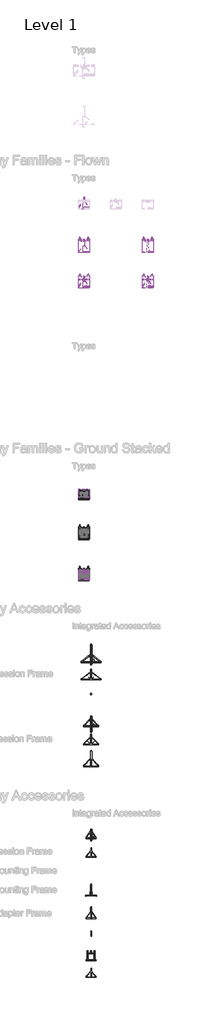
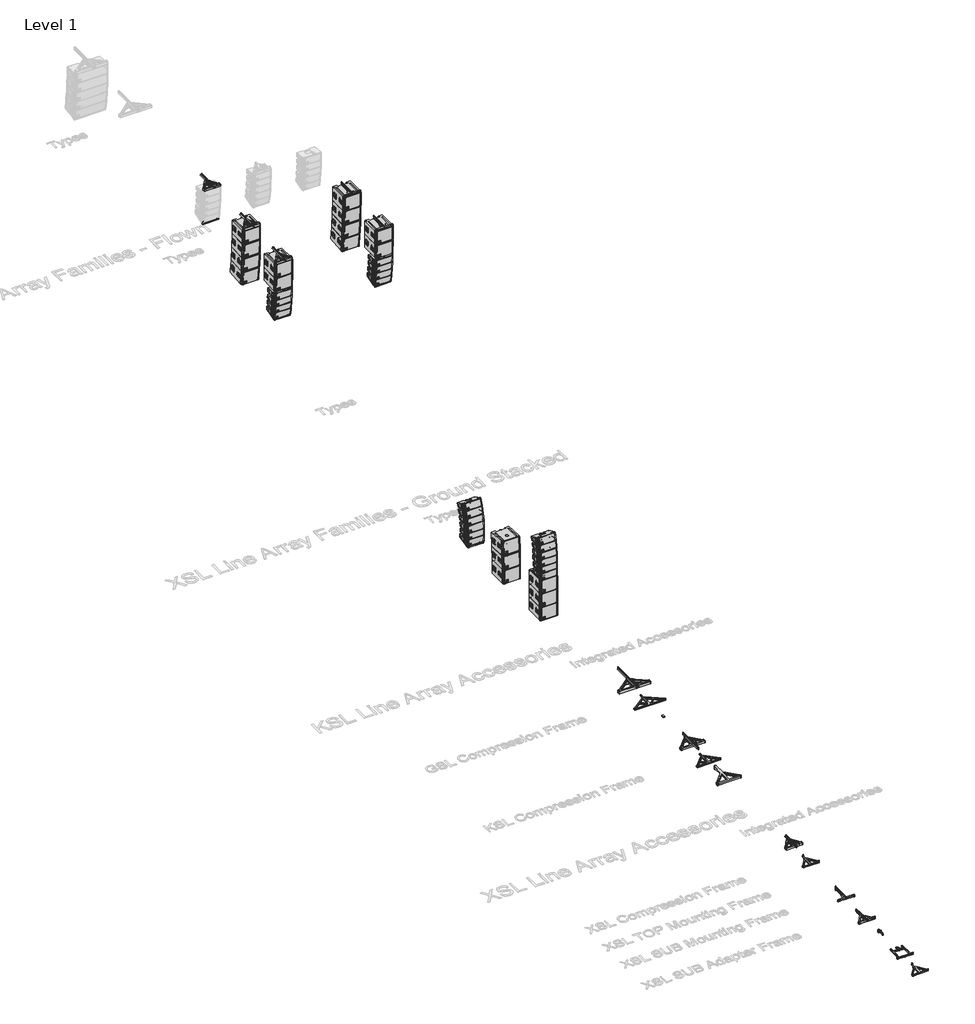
# One storey, part 1 of 52: 74 proxies.
"""IFC4 building model written with IfcOpenShell, lengths in millimetres."""

from ifc_helpers import new_model, si_unit, origin, place, context, project, spatial, transform, mapped, element, save
from components import communication_devices_670856ec, communication_devices_4e83a63b, xsl_compression_frame_79202efc, communication_devices_4d89ff1e, communication_devices_fb2c1ed3, gsl_compression_frame_d4c21625, gsl_load_beam_2b40e9ae, ksl_adapter_frame_febc720b, ksl_compression_frame_dbb09a64, ksl_load_beam_08e2ac32, xsl_adapter_frame_a1c6265e, xsl_adapter_frame_4c239690, xsl_load_beam_a079c9b4, xsl_load_beam_7bbdde43, xsl_sub_mounting_frame_72f05cd3, xsl_sub_mounting_frame_cb1839e0, xsl_stack_adapter_3c41b4e6, xsl_stacking_frame_c5b48331, xsl_stacking_frame_b9873154, xsl_sub_eb40c905, xsl_sub_1e621e3c, xsl_sub_a75d85bd, xsl_sub_8213218d, xsl12_895e49e3, xsl12_576bfbdb, xsl12_ee73a5ce

model = new_model("IFC4")

# Units and contexts
model_context = context("Model", 3, world=origin())
ifc_project = project(units=[si_unit("LENGTHUNIT", "METRE", prefix="MILLI")], contexts=[model_context])

# Site, building, storey
site = spatial("IfcSite", under=ifc_project)
building = spatial("IfcBuilding", under=site)
storey = spatial("IfcBuildingStorey", under=building, Name="Level 1", Elevation=0.0)

# Proxies
placement = place(None, origin())
communication_devices_shape = communication_devices_670856ec(model_context)
element("IfcBuildingElementProxy", 1, Name="d&b SL-Series KSL Flying Frame : KSL Flying Frame", ObjectType="d&b SL-Series KSL Flying Frame : KSL Flying Frame", at=placement, inside=storey, context=model_context, shape_type="MappedRepresentation", body=[
    mapped(communication_devices_shape, transform((-10296.3792514, -55696.8128045, 0.0), x_axis=(1.0, 0.0, 0.0), y_axis=(0.0, 1.0, 0.0), z_axis=(0.0, 0.0, 1.0))),
])
communication_devices_2_shape = communication_devices_4e83a63b(model_context)
element("IfcBuildingElementProxy", 2, Name="d&b SL-Series GSL Flying Frame : GSL Flying Frame", ObjectType="d&b SL-Series GSL Flying Frame : GSL Flying Frame", at=placement, inside=storey, context=model_context, shape_type="MappedRepresentation", body=[
    mapped(communication_devices_2_shape, transform((-10296.3792514, -51696.8128045, 0.0), x_axis=(1.0, 0.0, 0.0), y_axis=(0.0, 1.0, 0.0), z_axis=(0.0, 0.0, 1.0))),
])
xsl_compression_frame_shape = xsl_compression_frame_79202efc(model_context)
element("IfcBuildingElementProxy", 3, Name="d&b SL-Series XSL Pullback Frame : XSL Pullback Frame", ObjectType="d&b SL-Series XSL Pullback Frame : XSL Pullback Frame", at=placement, inside=storey, context=model_context, shape_type="MappedRepresentation", body=[
    mapped(xsl_compression_frame_shape, transform((-10296.3792514, -71385.7946783, 0.0), x_axis=(1.0, 0.0, 0.0), y_axis=(0.0, 1.0, 0.0), z_axis=(0.0, 0.0, 1.0))),
])
communication_devices_3_shape = communication_devices_4d89ff1e(model_context)
element("IfcBuildingElementProxy", 4, Name="d&b SL-Series XSL Flying Frame : XSL Flying Frame", ObjectType="d&b SL-Series XSL Flying Frame : XSL Flying Frame", at=placement, inside=storey, context=model_context, shape_type="MappedRepresentation", body=[
    mapped(communication_devices_3_shape, transform((-10296.3792514, -62666.3154614, 0.0), x_axis=(1.0, 0.0, 0.0), y_axis=(0.0, 1.0, 0.0), z_axis=(0.0, 0.0, 1.0))),
])
element("IfcBuildingElementProxy", 5, Name="d&b SL-Series XSL Flying Frame : XSL Flying Frame", ObjectType="d&b SL-Series XSL Flying Frame : XSL Flying Frame", at=placement, inside=storey, context=model_context, shape_type="MappedRepresentation", body=[
    mapped(communication_devices_3_shape, transform((-10741.6434304, -26060.7426738, 4011.0), x_axis=(1.0000000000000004, 0.0, 0.0), y_axis=(0.0, 1.0000000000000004, 0.0), z_axis=(0.0, 0.0, 1.0))),
])
element("IfcBuildingElementProxy", 6, Name="d&b SL-Series XSL Flying Frame : XSL Flying Frame", ObjectType="d&b SL-Series XSL Flying Frame : XSL Flying Frame", at=placement, inside=storey, context=model_context, shape_type="MappedRepresentation", body=[
    mapped(communication_devices_3_shape, transform((-10741.6434304, -28272.3737699, 3931.0), x_axis=(1.0, 0.0, 0.0), y_axis=(0.0, 1.0, 0.0), z_axis=(0.0, 0.0, 1.0))),
])
element("IfcBuildingElementProxy", 7, Name="d&b SL-Series XSL Flying Frame : XSL Flying Frame", ObjectType="d&b SL-Series XSL Flying Frame : XSL Flying Frame", at=placement, inside=storey, context=model_context, shape_type="MappedRepresentation", body=[
    mapped(communication_devices_3_shape, transform((-10741.6434304, -23330.9856601, 4011.0), x_axis=(1.0000000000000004, 0.0, 0.0), y_axis=(0.0, 1.0000000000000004, 0.0), z_axis=(0.0, 0.0, 1.0))),
])
communication_devices_4_shape = communication_devices_fb2c1ed3(model_context)
element("IfcBuildingElementProxy", 8, Name="d&b SL-Series ArraySight Sender Unit : ArraySight Sender Unit", ObjectType="d&b SL-Series ArraySight Sender Unit : ArraySight Sender Unit", at=placement, inside=storey, context=model_context, shape_type="MappedRepresentation", body=[
    mapped(communication_devices_4_shape, transform((-10296.3792514, -53696.8128045, 0.0), x_axis=(1.0, 0.0, 0.0), y_axis=(0.0, 1.0, 0.0), z_axis=(0.0, 0.0, 1.0))),
])
element("IfcBuildingElementProxy", 9, Name="d&b SL-Series ArraySight Sender Unit : ArraySight Sender Unit", ObjectType="d&b SL-Series ArraySight Sender Unit : ArraySight Sender Unit", at=placement, inside=storey, context=model_context, shape_type="MappedRepresentation", body=[
    mapped(communication_devices_4_shape, transform((-10667.2568891, -23330.9856601, 4004.0), x_axis=(1.0000000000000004, 0.0, 0.0), y_axis=(0.0, 1.0000000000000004, 0.0), z_axis=(0.0, 0.0, 1.0))),
])
element("IfcBuildingElementProxy", 10, Name="d&b SL-Series ArraySight Sender Unit : ArraySight Sender Unit", ObjectType="d&b SL-Series ArraySight Sender Unit : ArraySight Sender Unit", at=placement, inside=storey, context=model_context, shape_type="MappedRepresentation", body=[
    mapped(communication_devices_4_shape, transform((-10667.1492121, -26068.3898699, 4005.546875), x_axis=(1.0000000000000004, 0.0, 0.0), y_axis=(0.0, 1.0000000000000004, 0.0), z_axis=(0.0, 0.0, 1.0))),
])
element("IfcBuildingElementProxy", 11, Name="d&b SL-Series ArraySight Sender Unit : ArraySight Sender Unit", ObjectType="d&b SL-Series ArraySight Sender Unit : ArraySight Sender Unit", at=placement, inside=storey, context=model_context, shape_type="MappedRepresentation", body=[
    mapped(communication_devices_4_shape, transform((-10591.6434304, -28209.2487699, 3924.0), x_axis=(1.0, 0.0, 0.0), y_axis=(0.0, 1.0, 0.0), z_axis=(0.0, 0.0, 1.0))),
])
element("IfcBuildingElementProxy", 12, Name="d&b SL-Series ArraySight Sender Unit : ArraySight Sender Unit", ObjectType="d&b SL-Series ArraySight Sender Unit : ArraySight Sender Unit", at=placement, inside=storey, context=model_context, shape_type="MappedRepresentation", body=[
    mapped(communication_devices_4_shape, transform((-6591.6434304, -28209.2487699, 3924.0), x_axis=(1.0, 0.0, 0.0), y_axis=(0.0, 1.0, 0.0), z_axis=(0.0, 0.0, 1.0))),
])
element("IfcBuildingElementProxy", 13, Name="d&b SL-Series ArraySight Sender Unit : ArraySight Sender Unit", ObjectType="d&b SL-Series ArraySight Sender Unit : ArraySight Sender Unit", at=placement, inside=storey, context=model_context, shape_type="MappedRepresentation", body=[
    mapped(communication_devices_4_shape, transform((-6667.1492121, -26068.3898699, 4005.546875), x_axis=(1.0000000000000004, 0.0, 0.0), y_axis=(0.0, 1.0000000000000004, 0.0), z_axis=(0.0, 0.0, 1.0))),
])
gsl_compression_frame_shape = gsl_compression_frame_d4c21625(model_context)
element("IfcBuildingElementProxy", 14, Name="d&b SL-Series GSL Compression Frame : GSL Compression Frame", ObjectType="d&b SL-Series GSL Compression Frame : GSL Compression Frame", at=placement, inside=storey, context=model_context, shape_type="MappedRepresentation", body=[
    mapped(gsl_compression_frame_shape, transform((-10296.3792514, -52772.8536732, 0.0), x_axis=(1.0, 0.0, 0.0), y_axis=(0.0, 1.0, 0.0), z_axis=(0.0, 0.0, 1.0))),
])
gsl_load_beam_shape = gsl_load_beam_2b40e9ae(model_context)
element("IfcBuildingElementProxy", 15, Name="d&b SL-Series GSL Load Beam : GSL Load Beam", ObjectType="d&b SL-Series GSL Load Beam : GSL Load Beam", at=placement, inside=storey, context=model_context, shape_type="MappedRepresentation", body=[
    mapped(gsl_load_beam_shape, transform((-10296.3792514, -51696.8128045, 0.0), x_axis=(1.0, 0.0, 0.0), y_axis=(0.0, 1.0, 0.0), z_axis=(0.0, 0.0, 1.0))),
])
ksl_adapter_frame_shape = ksl_adapter_frame_febc720b(model_context)
element("IfcBuildingElementProxy", 16, Name="d&b SL-Series KSL Adapter Frame : KSL Adapter Frame", ObjectType="d&b SL-Series KSL Adapter Frame : KSL Adapter Frame", at=placement, inside=storey, context=model_context, shape_type="MappedRepresentation", body=[
    mapped(ksl_adapter_frame_shape, transform((-11296.3792514, -58188.2587465, 0.0), x_axis=(1.0, 0.0, 0.0), y_axis=(0.0, 1.0, 0.0), z_axis=(0.0, 0.0, 1.0))),
])
ksl_compression_frame_shape = ksl_compression_frame_dbb09a64(model_context)
element("IfcBuildingElementProxy", 17, Name="d&b SL-Series KSL Compression Frame : KSL Compression Frame", ObjectType="d&b SL-Series KSL Compression Frame : KSL Compression Frame", at=placement, inside=storey, context=model_context, shape_type="MappedRepresentation", body=[
    mapped(ksl_compression_frame_shape, transform((-10296.3792514, -56832.8536732, 0.0), x_axis=(1.0, 0.0, 0.0), y_axis=(0.0, 1.0, 0.0), z_axis=(0.0, 0.0, 1.0))),
])
ksl_load_beam_shape = ksl_load_beam_08e2ac32(model_context)
element("IfcBuildingElementProxy", 18, Name="d&b SL-Series KSL Load Beam : KSL Load Beam", ObjectType="d&b SL-Series KSL Load Beam : KSL Load Beam", at=placement, inside=storey, context=model_context, shape_type="MappedRepresentation", body=[
    mapped(ksl_load_beam_shape, transform((-10296.3792514, -55696.8128045, 0.0), x_axis=(1.0, 0.0, 0.0), y_axis=(0.0, 1.0, 0.0), z_axis=(0.0, 0.0, 1.0))),
])
xsl_adapter_frame_shape = xsl_adapter_frame_a1c6265e(model_context)
xsl_adapter_frame_2_shape = xsl_adapter_frame_4c239690(model_context)
element("IfcBuildingElementProxy", 19, Name="d&b SL-Series XSL SUB Adapter Frame : XSL Adapter Frame", ObjectType="d&b SL-Series XSL SUB Adapter Frame : XSL Adapter Frame", at=placement, inside=storey, context=model_context, shape_type="MappedRepresentation", body=[
    mapped(xsl_adapter_frame_shape, transform((-10741.6434304, -28297.7865, 2766.5781988), x_axis=(1.0, 0.0, 0.0), y_axis=(0.0, 0.9993908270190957, 0.034899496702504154), z_axis=(0.0, -0.034899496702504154, 0.9993908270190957))),
    mapped(xsl_adapter_frame_2_shape, transform((-10741.6434304, -28297.7865, 2766.5781988), x_axis=(1.0, 0.0, 0.0), y_axis=(0.0, 0.9993908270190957, 0.034899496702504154), z_axis=(0.0, -0.034899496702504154, 0.9993908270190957))),
])
element("IfcBuildingElementProxy", 20, Name="d&b SL-Series XSL SUB Adapter Frame : XSL Adapter Frame", ObjectType="d&b SL-Series XSL SUB Adapter Frame : XSL Adapter Frame", at=placement, inside=storey, context=model_context, shape_type="MappedRepresentation", body=[
    mapped(xsl_adapter_frame_shape, transform((-6741.6434304, -28297.7865, 2766.5781988), x_axis=(1.0, 0.0, 0.0), y_axis=(0.0, 0.9993908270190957, 0.034899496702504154), z_axis=(0.0, -0.034899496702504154, 0.9993908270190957))),
    mapped(xsl_adapter_frame_2_shape, transform((-6741.6434304, -28297.7865, 2766.5781988), x_axis=(1.0, 0.0, 0.0), y_axis=(0.0, 0.9993908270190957, 0.034899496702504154), z_axis=(0.0, -0.034899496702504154, 0.9993908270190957))),
])
element("IfcBuildingElementProxy", 21, Name="d&b SL-Series XSL Compression Frame : XSL Compression Frame", ObjectType="d&b SL-Series XSL Compression Frame : XSL Compression Frame", at=placement, inside=storey, context=model_context, shape_type="MappedRepresentation", body=[
    mapped(xsl_compression_frame_shape, transform((-10296.3792514, -63866.3154614, 0.0), x_axis=(1.0, 0.0, 0.0), y_axis=(0.0, 1.0, 0.0), z_axis=(0.0, 0.0, 1.0))),
])
element("IfcBuildingElementProxy", 22, Name="d&b SL-Series XSL Compression Frame : XSL Compression Frame", ObjectType="d&b SL-Series XSL Compression Frame : XSL Compression Frame", at=placement, inside=storey, context=model_context, shape_type="MappedRepresentation", body=[
    mapped(xsl_compression_frame_shape, transform((-10741.6434304, -28194.0208606, 1541.4998097), x_axis=(1.0, 0.0, 0.0), y_axis=(0.0, 0.990268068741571, 0.13917310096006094), z_axis=(0.0, -0.13917310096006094, 0.990268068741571))),
])
element("IfcBuildingElementProxy", 23, Name="d&b SL-Series XSL Compression Frame : XSL Compression Frame", ObjectType="d&b SL-Series XSL Compression Frame : XSL Compression Frame", at=placement, inside=storey, context=model_context, shape_type="MappedRepresentation", body=[
    mapped(xsl_compression_frame_shape, transform((-6741.6434304, -28194.0208606, 1541.4998097), x_axis=(1.0, 0.0, 0.0), y_axis=(0.0, 0.990268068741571, 0.13917310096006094), z_axis=(0.0, -0.13917310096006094, 0.990268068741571))),
])
element("IfcBuildingElementProxy", 24, Name="d&b SL-Series XSL Compression Frame : XSL Compression Frame", ObjectType="d&b SL-Series XSL Compression Frame : XSL Compression Frame", at=placement, inside=storey, context=model_context, shape_type="MappedRepresentation", body=[
    mapped(xsl_compression_frame_shape, transform((-10741.6434304, -23258.1779583, 2573.6576179), x_axis=(1.0000000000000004, 0.0, 0.0), y_axis=(0.0, 0.981627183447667, 0.19080899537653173), z_axis=(0.0, -0.19080899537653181, 0.9816271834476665))),
])
xsl_load_beam_shape = xsl_load_beam_a079c9b4(model_context)
element("IfcBuildingElementProxy", 25, Name="d&b SL-Series XSL Load Beam : XSL Load Beam", ObjectType="d&b SL-Series XSL Load Beam : XSL Load Beam", at=placement, inside=storey, context=model_context, shape_type="MappedRepresentation", body=[
    mapped(xsl_load_beam_shape, transform((-10296.3792514, -62622.8108893, -10.9199532), x_axis=(1.0, 0.0, 0.0), y_axis=(0.0, 1.0, 0.0), z_axis=(0.0, 0.0, 1.0))),
])
xsl_load_beam_2_shape = xsl_load_beam_7bbdde43(model_context)
element("IfcBuildingElementProxy", 26, Name="d&b SL-Series XSL Load Beam : XSL Load Beam", ObjectType="d&b SL-Series XSL Load Beam : XSL Load Beam", at=placement, inside=storey, context=model_context, shape_type="MappedRepresentation", body=[
    mapped(xsl_load_beam_2_shape, transform((-10741.6434304, -26017.2381016, 4000.0800468), x_axis=(1.0000000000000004, 0.0, 0.0), y_axis=(0.0, 1.0000000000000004, 0.0), z_axis=(0.0, 0.0, 1.0))),
])
element("IfcBuildingElementProxy", 27, Name="d&b SL-Series XSL Load Beam : XSL Load Beam", ObjectType="d&b SL-Series XSL Load Beam : XSL Load Beam", at=placement, inside=storey, context=model_context, shape_type="MappedRepresentation", body=[
    mapped(xsl_load_beam_2_shape, transform((-10741.6434304, -28228.8691978, 3920.0800468), x_axis=(1.0, 0.0, 0.0), y_axis=(0.0, 1.0, 0.0), z_axis=(0.0, 0.0, 1.0))),
])
element("IfcBuildingElementProxy", 28, Name="d&b SL-Series XSL Load Beam : XSL Load Beam", ObjectType="d&b SL-Series XSL Load Beam : XSL Load Beam", at=placement, inside=storey, context=model_context, shape_type="MappedRepresentation", body=[
    mapped(xsl_load_beam_2_shape, transform((-10741.6434304, -23287.481088, 4000.0800468), x_axis=(1.0000000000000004, 0.0, 0.0), y_axis=(0.0, 1.0000000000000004, 0.0), z_axis=(0.0, 0.0, 1.0))),
])
element("IfcBuildingElementProxy", 29, Name="d&b SL-Series XSL SUB Adapter Frame : XSL SUB Adapter Frame", ObjectType="d&b SL-Series XSL SUB Adapter Frame : XSL SUB Adapter Frame", at=placement, inside=storey, context=model_context, shape_type="MappedRepresentation", body=[
    mapped(xsl_adapter_frame_shape, transform((-10296.3792514, -67721.4553045, 0.0), x_axis=(1.0, 0.0, 0.0), y_axis=(0.0, 1.0, 0.0), z_axis=(0.0, 0.0, 1.0))),
    mapped(xsl_adapter_frame_2_shape, transform((-10296.3792514, -67721.4553045, 0.0), x_axis=(1.0, 0.0, 0.0), y_axis=(0.0, 1.0, 0.0), z_axis=(0.0, 0.0, 1.0))),
])
xsl_sub_mounting_frame_shape = xsl_sub_mounting_frame_72f05cd3(model_context)
xsl_sub_mounting_frame_2_shape = xsl_sub_mounting_frame_cb1839e0(model_context)
element("IfcBuildingElementProxy", 30, Name="d&b SL-Series XSL SUB Mounting Frame : XSL SUB Mounting Frame", ObjectType="d&b SL-Series XSL SUB Mounting Frame : XSL SUB Mounting Frame", at=placement, inside=storey, context=model_context, shape_type="MappedRepresentation", body=[
    mapped(xsl_sub_mounting_frame_shape, transform((-6741.6434304, -28272.3737699, 3931.0), x_axis=(1.0, 0.0, 0.0), y_axis=(0.0, 1.0, 0.0), z_axis=(0.0, 0.0, 1.0))),
    mapped(xsl_sub_mounting_frame_2_shape, transform((-6741.6434304, -28272.3737699, 3931.0), x_axis=(1.0, 0.0, 0.0), y_axis=(0.0, 1.0, 0.0), z_axis=(0.0, 0.0, 1.0))),
])
element("IfcBuildingElementProxy", 31, Name="d&b SL-Series XSL SUB Mounting Frame : XSL SUB Mounting Frame", ObjectType="d&b SL-Series XSL SUB Mounting Frame : XSL SUB Mounting Frame", at=placement, inside=storey, context=model_context, shape_type="MappedRepresentation", body=[
    mapped(xsl_sub_mounting_frame_shape, transform((-6741.6434304, -26060.7426738, 4011.0), x_axis=(1.0000000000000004, 0.0, 0.0), y_axis=(0.0, 1.0000000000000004, 0.0), z_axis=(0.0, 0.0, 1.0))),
    mapped(xsl_sub_mounting_frame_2_shape, transform((-6741.6434304, -26060.7426738, 4011.0), x_axis=(1.0000000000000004, 0.0, 0.0), y_axis=(0.0, 1.0000000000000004, 0.0), z_axis=(0.0, 0.0, 1.0))),
])
element("IfcBuildingElementProxy", 32, Name="d&b SL-Series XSL SUB Mounting Frame : XSL SUB Mounting Frame", ObjectType="d&b SL-Series XSL SUB Mounting Frame : XSL SUB Mounting Frame", at=placement, inside=storey, context=model_context, shape_type="MappedRepresentation", body=[
    mapped(xsl_sub_mounting_frame_shape, transform((-10296.3792514, -66252.3737699, 0.0), x_axis=(1.0, 0.0, 0.0), y_axis=(0.0, 1.0, 0.0), z_axis=(0.0, 0.0, 1.0))),
    mapped(xsl_sub_mounting_frame_2_shape, transform((-10296.3792514, -66252.3737699, 0.0), x_axis=(1.0, 0.0, 0.0), y_axis=(0.0, 1.0, 0.0), z_axis=(0.0, 0.0, 1.0))),
])
xsl_stack_adapter_shape = xsl_stack_adapter_3c41b4e6(model_context)
element("IfcBuildingElementProxy", 33, Name="d&b SL-Series XSL Stack Adapter : XSL Stack Adapter", ObjectType="d&b SL-Series XSL Stack Adapter : XSL Stack Adapter", at=placement, inside=storey, context=model_context, shape_type="MappedRepresentation", body=[
    mapped(xsl_stack_adapter_shape, transform((-10296.3792514, -68481.4742773, 0.0), x_axis=(1.0, 0.0, 0.0), y_axis=(0.0, 1.0, 0.0), z_axis=(0.0, 0.0, 1.0))),
])
element("IfcBuildingElementProxy", 34, Name="d&b SL-Series XSL Stack Adapter : XSL Stack Adapter", ObjectType="d&b SL-Series XSL Stack Adapter : XSL Stack Adapter", at=placement, inside=storey, context=model_context, shape_type="MappedRepresentation", body=[
    mapped(xsl_stack_adapter_shape, transform((-10741.6434304, -45814.3618052, 1693.5273371), x_axis=(1.0, 0.0, 0.0), y_axis=(0.0, 1.0, 0.0), z_axis=(0.0, 0.0, 1.0))),
])
xsl_stacking_frame_shape = xsl_stacking_frame_c5b48331(model_context)
xsl_stacking_frame_2_shape = xsl_stacking_frame_b9873154(model_context)
element("IfcBuildingElementProxy", 35, Name="d&b SL-Series XSL Stacking Frame : XSL Stacking Frame", ObjectType="d&b SL-Series XSL Stacking Frame : XSL Stacking Frame", at=placement, inside=storey, context=model_context, shape_type="MappedRepresentation", body=[
    mapped(xsl_stacking_frame_shape, transform((-10296.3792514, -70282.5436027, 0.0), x_axis=(1.0, 0.0, 0.0), y_axis=(0.0, 1.0, 0.0), z_axis=(0.0, 0.0, 1.0))),
    mapped(xsl_stacking_frame_2_shape, transform((-10296.3792514, -70282.5436027, 0.0), x_axis=(1.0, 0.0, 0.0), y_axis=(0.0, 1.0, 0.0), z_axis=(0.0, 0.0, 1.0))),
])
element("IfcBuildingElementProxy", 36, Name="d&b SL-Series XSL Stacking Frame : XSL Stacking Frame", ObjectType="d&b SL-Series XSL Stacking Frame : XSL Stacking Frame", at=placement, inside=storey, context=model_context, shape_type="MappedRepresentation", body=[
    mapped(xsl_stacking_frame_shape, transform((-10741.6434304, -41472.4107347, 0.0), x_axis=(1.0000000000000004, 0.0, 0.0), y_axis=(0.0, 1.0000000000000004, 0.0), z_axis=(0.0, 0.0, 1.0))),
    mapped(xsl_stacking_frame_2_shape, transform((-10741.6434304, -41472.4107347, 0.0), x_axis=(1.0000000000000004, 0.0, 0.0), y_axis=(0.0, 1.0000000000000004, 0.0), z_axis=(0.0, 0.0, 1.0))),
])
xsl_sub_shape = xsl_sub_eb40c905(model_context)
xsl_sub_2_shape = xsl_sub_1e621e3c(model_context)
xsl_sub_3_shape = xsl_sub_a75d85bd(model_context)
element("IfcBuildingElementProxy", 37, Name="d&b SL-Series XSL-SUB : XSL-SUB", ObjectType="d&b SL-Series XSL-SUB : XSL-SUB", at=placement, inside=storey, context=model_context, shape_type="MappedRepresentation", body=[
    mapped(xsl_sub_shape, transform((-13241.6434304, -43908.2776915, 1175.7748079), x_axis=(1.0000000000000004, 0.0, 0.0), y_axis=(0.0, 0.9975640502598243, -0.06975647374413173), z_axis=(0.0, 0.06975647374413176, 0.9975640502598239))),
    mapped(xsl_sub_2_shape, transform((-13241.6434304, -43908.2776915, 1175.7748079), x_axis=(1.0000000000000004, 0.0, 0.0), y_axis=(0.0, 0.9975640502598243, -0.06975647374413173), z_axis=(0.0, 0.06975647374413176, 0.9975640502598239))),
    mapped(xsl_sub_3_shape, transform((-13241.6434304, -43908.2776915, 1175.7748079), x_axis=(1.0000000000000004, 0.0, 0.0), y_axis=(0.0, 0.9975640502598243, -0.06975647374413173), z_axis=(0.0, 0.06975647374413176, 0.9975640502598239))),
])
element("IfcBuildingElementProxy", 38, Name="d&b SL-Series XSL-SUB : XSL-SUB", ObjectType="d&b SL-Series XSL-SUB : XSL-SUB", at=placement, inside=storey, context=model_context, shape_type="MappedRepresentation", body=[
    mapped(xsl_sub_shape, transform((-13241.6434304, -46485.5993673, 0.0), x_axis=(1.0, 0.0, 0.0), y_axis=(0.0, 1.0, 0.0), z_axis=(0.0, 0.0, 1.0))),
    mapped(xsl_sub_2_shape, transform((-13241.6434304, -46485.5993673, 0.0), x_axis=(1.0, 0.0, 0.0), y_axis=(0.0, 1.0, 0.0), z_axis=(0.0, 0.0, 1.0))),
    mapped(xsl_sub_3_shape, transform((-13241.6434304, -46485.5993673, 0.0), x_axis=(1.0, 0.0, 0.0), y_axis=(0.0, 1.0, 0.0), z_axis=(0.0, 0.0, 1.0))),
])
element("IfcBuildingElementProxy", 39, Name="d&b SL-Series XSL-SUB : XSL-SUB", ObjectType="d&b SL-Series XSL-SUB : XSL-SUB", at=placement, inside=storey, context=model_context, shape_type="MappedRepresentation", body=[
    mapped(xsl_sub_shape, transform((-13241.6434304, -46485.5993673, 564.2869837), x_axis=(1.0, 0.0, 0.0), y_axis=(0.0, 1.0, 0.0), z_axis=(0.0, 0.0, 1.0))),
    mapped(xsl_sub_2_shape, transform((-13241.6434304, -46485.5993673, 564.2869837), x_axis=(1.0, 0.0, 0.0), y_axis=(0.0, 1.0, 0.0), z_axis=(0.0, 0.0, 1.0))),
    mapped(xsl_sub_3_shape, transform((-13241.6434304, -46485.5993673, 564.2869837), x_axis=(1.0, 0.0, 0.0), y_axis=(0.0, 1.0, 0.0), z_axis=(0.0, 0.0, 1.0))),
])
element("IfcBuildingElementProxy", 40, Name="d&b SL-Series XSL-SUB : XSL-SUB", ObjectType="d&b SL-Series XSL-SUB : XSL-SUB", at=placement, inside=storey, context=model_context, shape_type="MappedRepresentation", body=[
    mapped(xsl_sub_shape, transform((-13241.6434304, -46485.5993673, 1128.5739675), x_axis=(1.0, 0.0, 0.0), y_axis=(0.0, 1.0, 0.0), z_axis=(0.0, 0.0, 1.0))),
    mapped(xsl_sub_2_shape, transform((-13241.6434304, -46485.5993673, 1128.5739675), x_axis=(1.0, 0.0, 0.0), y_axis=(0.0, 1.0, 0.0), z_axis=(0.0, 0.0, 1.0))),
    mapped(xsl_sub_3_shape, transform((-13241.6434304, -46485.5993673, 1128.5739675), x_axis=(1.0, 0.0, 0.0), y_axis=(0.0, 1.0, 0.0), z_axis=(0.0, 0.0, 1.0))),
])
element("IfcBuildingElementProxy", 41, Name="d&b SL-Series XSL-SUB : XSL-SUB", ObjectType="d&b SL-Series XSL-SUB : XSL-SUB", at=placement, inside=storey, context=model_context, shape_type="MappedRepresentation", body=[
    mapped(xsl_sub_shape, transform((-13241.6434304, -28228.3743673, 3348.1966304), x_axis=(1.0, 0.0, 0.0), y_axis=(0.0, 1.0, 0.0), z_axis=(0.0, 0.0, 1.0))),
    mapped(xsl_sub_2_shape, transform((-13241.6434304, -28228.3743673, 3348.1966304), x_axis=(1.0, 0.0, 0.0), y_axis=(0.0, 1.0, 0.0), z_axis=(0.0, 0.0, 1.0))),
    mapped(xsl_sub_3_shape, transform((-13241.6434304, -28228.3743673, 3348.1966304), x_axis=(1.0, 0.0, 0.0), y_axis=(0.0, 1.0, 0.0), z_axis=(0.0, 0.0, 1.0))),
])
element("IfcBuildingElementProxy", 42, Name="d&b SL-Series XSL-SUB : XSL-SUB", ObjectType="d&b SL-Series XSL-SUB : XSL-SUB", at=placement, inside=storey, context=model_context, shape_type="MappedRepresentation", body=[
    mapped(xsl_sub_shape, transform((-9241.6434304, -28228.3743673, 3348.1966304), x_axis=(1.0, 0.0, 0.0), y_axis=(0.0, 1.0, 0.0), z_axis=(0.0, 0.0, 1.0))),
    mapped(xsl_sub_2_shape, transform((-9241.6434304, -28228.3743673, 3348.1966304), x_axis=(1.0, 0.0, 0.0), y_axis=(0.0, 1.0, 0.0), z_axis=(0.0, 0.0, 1.0))),
    mapped(xsl_sub_3_shape, transform((-9241.6434304, -28228.3743673, 3348.1966304), x_axis=(1.0, 0.0, 0.0), y_axis=(0.0, 1.0, 0.0), z_axis=(0.0, 0.0, 1.0))),
])
xsl_sub_4_shape = xsl_sub_8213218d(model_context)
element("IfcBuildingElementProxy", 43, Name="d&b SL-Series XSL-SUB : XSL-SUB", ObjectType="d&b SL-Series XSL-SUB : XSL-SUB", at=placement, inside=storey, context=model_context, shape_type="MappedRepresentation", body=[
    mapped(xsl_sub_shape, transform((-13241.6434304, -43934.0373035, 0.0), x_axis=(1.0000000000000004, 0.0, 0.0), y_axis=(0.0, 1.0000000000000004, 0.0), z_axis=(0.0, 0.0, 1.0))),
    mapped(xsl_sub_4_shape, transform((-13241.6434304, -43934.0373035, 0.0), x_axis=(1.0000000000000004, 0.0, 0.0), y_axis=(0.0, 1.0000000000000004, 0.0), z_axis=(0.0, 0.0, 1.0))),
    mapped(xsl_sub_3_shape, transform((-13241.6434304, -43934.0373035, 0.0), x_axis=(1.0000000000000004, 0.0, 0.0), y_axis=(0.0, 1.0000000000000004, 0.0), z_axis=(0.0, 0.0, 1.0))),
])
element("IfcBuildingElementProxy", 44, Name="d&b SL-Series XSL-SUB : XSL-SUB", ObjectType="d&b SL-Series XSL-SUB : XSL-SUB", at=placement, inside=storey, context=model_context, shape_type="MappedRepresentation", body=[
    mapped(xsl_sub_shape, transform((-13241.6434304, -43932.3540792, 588.1448716), x_axis=(1.0000000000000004, 0.0, 0.0), y_axis=(0.0, 0.9993908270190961, -0.03489949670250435), z_axis=(0.0, 0.03489949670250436, 0.9993908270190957))),
    mapped(xsl_sub_4_shape, transform((-13241.6434304, -43932.3540792, 588.1448716), x_axis=(1.0000000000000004, 0.0, 0.0), y_axis=(0.0, 0.9993908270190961, -0.03489949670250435), z_axis=(0.0, 0.03489949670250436, 0.9993908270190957))),
    mapped(xsl_sub_3_shape, transform((-13241.6434304, -43932.3540792, 588.1448716), x_axis=(1.0000000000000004, 0.0, 0.0), y_axis=(0.0, 0.9993908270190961, -0.03489949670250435), z_axis=(0.0, 0.03489949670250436, 0.9993908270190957))),
])
element("IfcBuildingElementProxy", 45, Name="d&b SL-Series XSL-SUB : XSL-SUB", ObjectType="d&b SL-Series XSL-SUB : XSL-SUB", at=placement, inside=storey, context=model_context, shape_type="MappedRepresentation", body=[
    mapped(xsl_sub_shape, transform((-13241.6434304, -28209.5306062, 2760.6382808), x_axis=(1.0, 0.0, 0.0), y_axis=(0.0, 0.9993908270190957, 0.03489949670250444), z_axis=(0.0, -0.03489949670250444, 0.9993908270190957))),
    mapped(xsl_sub_4_shape, transform((-13241.6434304, -28209.5306062, 2760.6382808), x_axis=(1.0, 0.0, 0.0), y_axis=(0.0, 0.9993908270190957, 0.03489949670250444), z_axis=(0.0, -0.03489949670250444, 0.9993908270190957))),
    mapped(xsl_sub_3_shape, transform((-13241.6434304, -28209.5306062, 2760.6382808), x_axis=(1.0, 0.0, 0.0), y_axis=(0.0, 0.9993908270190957, 0.03489949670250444), z_axis=(0.0, -0.03489949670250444, 0.9993908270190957))),
])
element("IfcBuildingElementProxy", 46, Name="d&b SL-Series XSL-SUB : XSL-SUB", ObjectType="d&b SL-Series XSL-SUB : XSL-SUB", at=placement, inside=storey, context=model_context, shape_type="MappedRepresentation", body=[
    mapped(xsl_sub_shape, transform((-9241.6434304, -28209.5306062, 2760.6382808), x_axis=(1.0, 0.0, 0.0), y_axis=(0.0, 0.9993908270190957, 0.03489949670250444), z_axis=(0.0, -0.03489949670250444, 0.9993908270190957))),
    mapped(xsl_sub_4_shape, transform((-9241.6434304, -28209.5306062, 2760.6382808), x_axis=(1.0, 0.0, 0.0), y_axis=(0.0, 0.9993908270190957, 0.03489949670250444), z_axis=(0.0, -0.03489949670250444, 0.9993908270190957))),
    mapped(xsl_sub_3_shape, transform((-9241.6434304, -28209.5306062, 2760.6382808), x_axis=(1.0, 0.0, 0.0), y_axis=(0.0, 0.9993908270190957, 0.03489949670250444), z_axis=(0.0, -0.03489949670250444, 0.9993908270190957))),
])
element("IfcBuildingElementProxy", 47, Name="d&b SL-Series XSL-SUB : XSL-SUB", ObjectType="d&b SL-Series XSL-SUB : XSL-SUB", at=placement, inside=storey, context=model_context, shape_type="MappedRepresentation", body=[
    mapped(xsl_sub_shape, transform((-13241.6434304, -26016.7432711, 3428.1966304), x_axis=(1.0000000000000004, 0.0, 0.0), y_axis=(0.0, 1.0000000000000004, 0.0), z_axis=(0.0, 0.0, 1.0))),
    mapped(xsl_sub_2_shape, transform((-13241.6434304, -26016.7432711, 3428.1966304), x_axis=(1.0000000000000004, 0.0, 0.0), y_axis=(0.0, 1.0000000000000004, 0.0), z_axis=(0.0, 0.0, 1.0))),
    mapped(xsl_sub_3_shape, transform((-13241.6434304, -26016.7432711, 3428.1966304), x_axis=(1.0000000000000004, 0.0, 0.0), y_axis=(0.0, 1.0000000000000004, 0.0), z_axis=(0.0, 0.0, 1.0))),
])
element("IfcBuildingElementProxy", 48, Name="d&b SL-Series XSL-SUB : XSL-SUB", ObjectType="d&b SL-Series XSL-SUB : XSL-SUB", at=placement, inside=storey, context=model_context, shape_type="MappedRepresentation", body=[
    mapped(xsl_sub_shape, transform((-9241.6434304, -26016.7432711, 3428.1966304), x_axis=(1.0000000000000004, 0.0, 0.0), y_axis=(0.0, 1.0000000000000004, 0.0), z_axis=(0.0, 0.0, 1.0))),
    mapped(xsl_sub_2_shape, transform((-9241.6434304, -26016.7432711, 3428.1966304), x_axis=(1.0000000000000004, 0.0, 0.0), y_axis=(0.0, 1.0000000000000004, 0.0), z_axis=(0.0, 0.0, 1.0))),
    mapped(xsl_sub_3_shape, transform((-9241.6434304, -26016.7432711, 3428.1966304), x_axis=(1.0000000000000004, 0.0, 0.0), y_axis=(0.0, 1.0000000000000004, 0.0), z_axis=(0.0, 0.0, 1.0))),
])
element("IfcBuildingElementProxy", 49, Name="d&b SL-Series XSL-SUB : XSL-SUB", ObjectType="d&b SL-Series XSL-SUB : XSL-SUB", at=placement, inside=storey, context=model_context, shape_type="MappedRepresentation", body=[
    mapped(xsl_sub_shape, transform((-13241.6434304, -25994.4015803, 2833.0550352), x_axis=(1.0000000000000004, 0.0, 0.0), y_axis=(0.0, 0.9993908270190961, 0.03489949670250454), z_axis=(0.0, -0.03489949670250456, 0.9993908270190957))),
    mapped(xsl_sub_4_shape, transform((-13241.6434304, -25994.4015803, 2833.0550352), x_axis=(1.0000000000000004, 0.0, 0.0), y_axis=(0.0, 0.9993908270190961, 0.03489949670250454), z_axis=(0.0, -0.03489949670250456, 0.9993908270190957))),
    mapped(xsl_sub_3_shape, transform((-13241.6434304, -25994.4015803, 2833.0550352), x_axis=(1.0000000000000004, 0.0, 0.0), y_axis=(0.0, 0.9993908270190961, 0.03489949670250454), z_axis=(0.0, -0.03489949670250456, 0.9993908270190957))),
])
element("IfcBuildingElementProxy", 50, Name="d&b SL-Series XSL-SUB : XSL-SUB", ObjectType="d&b SL-Series XSL-SUB : XSL-SUB", at=placement, inside=storey, context=model_context, shape_type="MappedRepresentation", body=[
    mapped(xsl_sub_shape, transform((-13241.6434304, -25951.8501575, 2239.0140093), x_axis=(1.0000000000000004, 0.0, 0.0), y_axis=(0.0, 0.9975640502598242, 0.06975647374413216), z_axis=(0.0, -0.06975647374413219, 0.9975640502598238))),
    mapped(xsl_sub_4_shape, transform((-13241.6434304, -25951.8501575, 2239.0140093), x_axis=(1.0000000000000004, 0.0, 0.0), y_axis=(0.0, 0.9975640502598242, 0.06975647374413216), z_axis=(0.0, -0.06975647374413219, 0.9975640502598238))),
    mapped(xsl_sub_3_shape, transform((-13241.6434304, -25951.8501575, 2239.0140093), x_axis=(1.0000000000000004, 0.0, 0.0), y_axis=(0.0, 0.9975640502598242, 0.06975647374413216), z_axis=(0.0, -0.06975647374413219, 0.9975640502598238))),
])
element("IfcBuildingElementProxy", 51, Name="d&b SL-Series XSL-SUB : XSL-SUB", ObjectType="d&b SL-Series XSL-SUB : XSL-SUB", at=placement, inside=storey, context=model_context, shape_type="MappedRepresentation", body=[
    mapped(xsl_sub_shape, transform((-13241.6434304, -25888.5929231, 1646.8198804), x_axis=(1.0000000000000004, 0.0, 0.0), y_axis=(0.0, 0.9945218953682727, 0.10452846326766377), z_axis=(0.0, -0.10452846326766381, 0.9945218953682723))),
    mapped(xsl_sub_4_shape, transform((-13241.6434304, -25888.5929231, 1646.8198804), x_axis=(1.0000000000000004, 0.0, 0.0), y_axis=(0.0, 0.9945218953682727, 0.10452846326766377), z_axis=(0.0, -0.10452846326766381, 0.9945218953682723))),
    mapped(xsl_sub_3_shape, transform((-13241.6434304, -25888.5929231, 1646.8198804), x_axis=(1.0000000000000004, 0.0, 0.0), y_axis=(0.0, 0.9945218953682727, 0.10452846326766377), z_axis=(0.0, -0.10452846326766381, 0.9945218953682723))),
])
element("IfcBuildingElementProxy", 52, Name="d&b SL-Series XSL-SUB : XSL-SUB", ObjectType="d&b SL-Series XSL-SUB : XSL-SUB", at=placement, inside=storey, context=model_context, shape_type="MappedRepresentation", body=[
    mapped(xsl_sub_shape, transform((-9241.6434304, -25994.4015803, 2833.0550352), x_axis=(1.0000000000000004, 0.0, 0.0), y_axis=(0.0, 0.9993908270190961, 0.03489949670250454), z_axis=(0.0, -0.03489949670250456, 0.9993908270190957))),
    mapped(xsl_sub_4_shape, transform((-9241.6434304, -25994.4015803, 2833.0550352), x_axis=(1.0000000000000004, 0.0, 0.0), y_axis=(0.0, 0.9993908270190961, 0.03489949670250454), z_axis=(0.0, -0.03489949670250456, 0.9993908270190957))),
    mapped(xsl_sub_3_shape, transform((-9241.6434304, -25994.4015803, 2833.0550352), x_axis=(1.0000000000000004, 0.0, 0.0), y_axis=(0.0, 0.9993908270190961, 0.03489949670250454), z_axis=(0.0, -0.03489949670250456, 0.9993908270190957))),
])
element("IfcBuildingElementProxy", 53, Name="d&b SL-Series XSL-SUB : XSL-SUB", ObjectType="d&b SL-Series XSL-SUB : XSL-SUB", at=placement, inside=storey, context=model_context, shape_type="MappedRepresentation", body=[
    mapped(xsl_sub_shape, transform((-9241.6434304, -25951.8501575, 2239.0140093), x_axis=(1.0000000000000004, 0.0, 0.0), y_axis=(0.0, 0.9975640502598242, 0.06975647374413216), z_axis=(0.0, -0.06975647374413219, 0.9975640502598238))),
    mapped(xsl_sub_4_shape, transform((-9241.6434304, -25951.8501575, 2239.0140093), x_axis=(1.0000000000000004, 0.0, 0.0), y_axis=(0.0, 0.9975640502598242, 0.06975647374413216), z_axis=(0.0, -0.06975647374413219, 0.9975640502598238))),
    mapped(xsl_sub_3_shape, transform((-9241.6434304, -25951.8501575, 2239.0140093), x_axis=(1.0000000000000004, 0.0, 0.0), y_axis=(0.0, 0.9975640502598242, 0.06975647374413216), z_axis=(0.0, -0.06975647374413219, 0.9975640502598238))),
])
element("IfcBuildingElementProxy", 54, Name="d&b SL-Series XSL-SUB : XSL-SUB", ObjectType="d&b SL-Series XSL-SUB : XSL-SUB", at=placement, inside=storey, context=model_context, shape_type="MappedRepresentation", body=[
    mapped(xsl_sub_shape, transform((-9241.6434304, -25888.5929231, 1646.8198804), x_axis=(1.0000000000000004, 0.0, 0.0), y_axis=(0.0, 0.9945218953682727, 0.10452846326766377), z_axis=(0.0, -0.10452846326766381, 0.9945218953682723))),
    mapped(xsl_sub_4_shape, transform((-9241.6434304, -25888.5929231, 1646.8198804), x_axis=(1.0000000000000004, 0.0, 0.0), y_axis=(0.0, 0.9945218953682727, 0.10452846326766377), z_axis=(0.0, -0.10452846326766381, 0.9945218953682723))),
    mapped(xsl_sub_3_shape, transform((-9241.6434304, -25888.5929231, 1646.8198804), x_axis=(1.0000000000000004, 0.0, 0.0), y_axis=(0.0, 0.9945218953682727, 0.10452846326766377), z_axis=(0.0, -0.10452846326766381, 0.9945218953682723))),
])
xsl12_shape = xsl12_895e49e3(model_context)
xsl12_2_shape = xsl12_576bfbdb(model_context)
xsl12_3_shape = xsl12_ee73a5ce(model_context)
element("IfcBuildingElementProxy", 55, Name="d&b SL-Series XSL : XSL8", ObjectType="d&b SL-Series XSL : XSL8", at=placement, inside=storey, context=model_context, shape_type="MappedRepresentation", body=[
    mapped(xsl12_shape, transform((-11241.6434304, -41137.0450121, 222.9081075), x_axis=(1.0000000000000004, 0.0, 0.0), y_axis=(0.0, 0.9961946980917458, 0.08715574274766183), z_axis=(0.0, -0.08715574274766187, 0.9961946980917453))),
    mapped(xsl12_2_shape, transform((-11241.6434304, -41137.0450121, 222.9081075), x_axis=(1.0000000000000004, 0.0, 0.0), y_axis=(0.0, 0.9961946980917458, 0.08715574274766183), z_axis=(0.0, -0.08715574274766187, 0.9961946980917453))),
    mapped(xsl12_3_shape, transform((-11241.6434304, -41137.0450121, 222.9081075), x_axis=(1.0000000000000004, 0.0, 0.0), y_axis=(0.0, 0.9961946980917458, 0.08715574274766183), z_axis=(0.0, -0.08715574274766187, 0.9961946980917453))),
])
element("IfcBuildingElementProxy", 56, Name="d&b SL-Series XSL : XSL8", ObjectType="d&b SL-Series XSL : XSL8", at=placement, inside=storey, context=model_context, shape_type="MappedRepresentation", body=[
    mapped(xsl12_shape, transform((-11241.6434304, -41150.1658055, 477.483629), x_axis=(1.0000000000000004, 0.0, 0.0), y_axis=(0.0, 1.0000000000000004, 0.0), z_axis=(0.0, 0.0, 1.0))),
    mapped(xsl12_2_shape, transform((-11241.6434304, -41150.1658055, 477.483629), x_axis=(1.0000000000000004, 0.0, 0.0), y_axis=(0.0, 1.0000000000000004, 0.0), z_axis=(0.0, 0.0, 1.0))),
    mapped(xsl12_3_shape, transform((-11241.6434304, -41150.1658055, 477.483629), x_axis=(1.0000000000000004, 0.0, 0.0), y_axis=(0.0, 1.0000000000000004, 0.0), z_axis=(0.0, 0.0, 1.0))),
])
element("IfcBuildingElementProxy", 57, Name="d&b SL-Series XSL : XSL8", ObjectType="d&b SL-Series XSL : XSL8", at=placement, inside=storey, context=model_context, shape_type="MappedRepresentation", body=[
    mapped(xsl12_shape, transform((-11241.6434304, -41141.0489517, 732.2339663), x_axis=(1.0000000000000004, 0.0, 0.0), y_axis=(0.0, 0.9961946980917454, -0.08715574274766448), z_axis=(0.0, 0.08715574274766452, 0.996194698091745))),
    mapped(xsl12_2_shape, transform((-11241.6434304, -41141.0489517, 732.2339663), x_axis=(1.0000000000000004, 0.0, 0.0), y_axis=(0.0, 0.9961946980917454, -0.08715574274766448), z_axis=(0.0, 0.08715574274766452, 0.996194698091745))),
    mapped(xsl12_3_shape, transform((-11241.6434304, -41141.0489517, 732.2339663), x_axis=(1.0000000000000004, 0.0, 0.0), y_axis=(0.0, 0.9961946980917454, -0.08715574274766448), z_axis=(0.0, 0.08715574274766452, 0.996194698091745))),
])
element("IfcBuildingElementProxy", 58, Name="d&b SL-Series XSL : XSL8", ObjectType="d&b SL-Series XSL : XSL8", at=placement, inside=storey, context=model_context, shape_type="MappedRepresentation", body=[
    mapped(xsl12_shape, transform((-11241.6434304, -41109.7638354, 985.2203154), x_axis=(1.0000000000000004, 0.0, 0.0), y_axis=(0.0, 0.9848077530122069, -0.17364817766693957), z_axis=(0.0, 0.17364817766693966, 0.9848077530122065))),
    mapped(xsl12_2_shape, transform((-11241.6434304, -41109.7638354, 985.2203154), x_axis=(1.0000000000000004, 0.0, 0.0), y_axis=(0.0, 0.9848077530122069, -0.17364817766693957), z_axis=(0.0, 0.17364817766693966, 0.9848077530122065))),
    mapped(xsl12_3_shape, transform((-11241.6434304, -41109.7638354, 985.2203154), x_axis=(1.0000000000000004, 0.0, 0.0), y_axis=(0.0, 0.9848077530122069, -0.17364817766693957), z_axis=(0.0, 0.17364817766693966, 0.9848077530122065))),
])
element("IfcBuildingElementProxy", 59, Name="d&b SL-Series XSL : XSL8", ObjectType="d&b SL-Series XSL : XSL8", at=placement, inside=storey, context=model_context, shape_type="MappedRepresentation", body=[
    mapped(xsl12_shape, transform((-11241.6434304, -41056.5485553, 1234.5172976), x_axis=(1.0000000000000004, 0.0, 0.0), y_axis=(0.0, 0.9659258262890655, -0.2588190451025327), z_axis=(0.0, 0.2588190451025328, 0.9659258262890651))),
    mapped(xsl12_2_shape, transform((-11241.6434304, -41056.5485553, 1234.5172976), x_axis=(1.0000000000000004, 0.0, 0.0), y_axis=(0.0, 0.9659258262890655, -0.2588190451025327), z_axis=(0.0, 0.2588190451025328, 0.9659258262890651))),
    mapped(xsl12_3_shape, transform((-11241.6434304, -41056.5485553, 1234.5172976), x_axis=(1.0000000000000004, 0.0, 0.0), y_axis=(0.0, 0.9659258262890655, -0.2588190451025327), z_axis=(0.0, 0.2588190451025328, 0.9659258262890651))),
])
element("IfcBuildingElementProxy", 60, Name="d&b SL-Series XSL : XSL8", ObjectType="d&b SL-Series XSL : XSL8", at=placement, inside=storey, context=model_context, shape_type="MappedRepresentation", body=[
    mapped(xsl12_shape, transform((-11241.6434304, -40981.8081117, 1478.2276122), x_axis=(1.0000000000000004, 0.0, 0.0), y_axis=(0.0, 0.9396926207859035, -0.3420201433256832), z_axis=(0.0, 0.34202014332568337, 0.9396926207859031))),
    mapped(xsl12_2_shape, transform((-11241.6434304, -40981.8081117, 1478.2276122), x_axis=(1.0000000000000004, 0.0, 0.0), y_axis=(0.0, 0.9396926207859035, -0.3420201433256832), z_axis=(0.0, 0.34202014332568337, 0.9396926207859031))),
    mapped(xsl12_3_shape, transform((-11241.6434304, -40981.8081117, 1478.2276122), x_axis=(1.0000000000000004, 0.0, 0.0), y_axis=(0.0, 0.9396926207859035, -0.3420201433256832), z_axis=(0.0, 0.34202014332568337, 0.9396926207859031))),
])
element("IfcBuildingElementProxy", 61, Name="d&b SL-Series XSL : XSL8", ObjectType="d&b SL-Series XSL : XSL8", at=placement, inside=storey, context=model_context, shape_type="MappedRepresentation", body=[
    mapped(xsl12_shape, transform((-11241.6434304, -46182.4743673, 1831.1372822), x_axis=(1.0, 0.0, 0.0), y_axis=(0.0, 1.0, 0.0), z_axis=(0.0, 0.0, 1.0))),
    mapped(xsl12_2_shape, transform((-11241.6434304, -46182.4743673, 1831.1372822), x_axis=(1.0, 0.0, 0.0), y_axis=(0.0, 1.0, 0.0), z_axis=(0.0, 0.0, 1.0))),
    mapped(xsl12_3_shape, transform((-11241.6434304, -46182.4743673, 1831.1372822), x_axis=(1.0, 0.0, 0.0), y_axis=(0.0, 1.0, 0.0), z_axis=(0.0, 0.0, 1.0))),
])
element("IfcBuildingElementProxy", 62, Name="d&b SL-Series XSL : XSL8", ObjectType="d&b SL-Series XSL : XSL8", at=placement, inside=storey, context=model_context, shape_type="MappedRepresentation", body=[
    mapped(xsl12_shape, transform((-11241.6434304, -46180.4371367, 2110.5208312), x_axis=(1.0, 0.0, 0.0), y_axis=(0.0, 0.9998476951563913, -0.017452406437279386), z_axis=(0.0, 0.017452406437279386, 0.9998476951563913))),
    mapped(xsl12_2_shape, transform((-11241.6434304, -46180.4371367, 2110.5208312), x_axis=(1.0, 0.0, 0.0), y_axis=(0.0, 0.9998476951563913, -0.017452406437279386), z_axis=(0.0, 0.017452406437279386, 0.9998476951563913))),
    mapped(xsl12_3_shape, transform((-11241.6434304, -46180.4371367, 2110.5208312), x_axis=(1.0, 0.0, 0.0), y_axis=(0.0, 0.9998476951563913, -0.017452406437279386), z_axis=(0.0, 0.017452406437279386, 0.9998476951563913))),
])
element("IfcBuildingElementProxy", 63, Name="d&b SL-Series XSL : XSL8", ObjectType="d&b SL-Series XSL : XSL8", at=placement, inside=storey, context=model_context, shape_type="MappedRepresentation", body=[
    mapped(xsl12_shape, transform((-11241.6434304, -46175.4551738, 2395.9372994), x_axis=(1.0, 0.0, 0.0), y_axis=(0.0, 0.9998476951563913, -0.017452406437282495), z_axis=(0.0, 0.017452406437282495, 0.9998476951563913))),
    mapped(xsl12_2_shape, transform((-11241.6434304, -46175.4551738, 2395.9372994), x_axis=(1.0, 0.0, 0.0), y_axis=(0.0, 0.9998476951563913, -0.017452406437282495), z_axis=(0.0, 0.017452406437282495, 0.9998476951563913))),
    mapped(xsl12_3_shape, transform((-11241.6434304, -46175.4551738, 2395.9372994), x_axis=(1.0, 0.0, 0.0), y_axis=(0.0, 0.9998476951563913, -0.017452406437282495), z_axis=(0.0, 0.017452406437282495, 0.9998476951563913))),
])
element("IfcBuildingElementProxy", 64, Name="d&b SL-Series XSL : XSL8", ObjectType="d&b SL-Series XSL : XSL8", at=placement, inside=storey, context=model_context, shape_type="MappedRepresentation", body=[
    mapped(xsl12_shape, transform((-11241.6434304, -46126.19813, 2902.8915435), x_axis=(1.0, 0.0, 0.0), y_axis=(0.0, 0.981627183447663, -0.19080899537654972), z_axis=(0.0, 0.19080899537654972, 0.981627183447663))),
    mapped(xsl12_2_shape, transform((-11241.6434304, -46126.19813, 2902.8915435), x_axis=(1.0, 0.0, 0.0), y_axis=(0.0, 0.981627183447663, -0.19080899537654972), z_axis=(0.0, 0.19080899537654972, 0.981627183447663))),
    mapped(xsl12_3_shape, transform((-11241.6434304, -46126.19813, 2902.8915435), x_axis=(1.0, 0.0, 0.0), y_axis=(0.0, 0.981627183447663, -0.19080899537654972), z_axis=(0.0, 0.19080899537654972, 0.981627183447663))),
])
element("IfcBuildingElementProxy", 65, Name="d&b SL-Series XSL : XSL8", ObjectType="d&b SL-Series XSL : XSL8", at=placement, inside=storey, context=model_context, shape_type="MappedRepresentation", body=[
    mapped(xsl12_shape, transform((-11241.6434304, -46068.6401226, 3151.2218218), x_axis=(1.0, 0.0, 0.0), y_axis=(0.0, 0.9612616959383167, -0.27563735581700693), z_axis=(0.0, 0.27563735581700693, 0.9612616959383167))),
    mapped(xsl12_2_shape, transform((-11241.6434304, -46068.6401226, 3151.2218218), x_axis=(1.0, 0.0, 0.0), y_axis=(0.0, 0.9612616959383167, -0.27563735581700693), z_axis=(0.0, 0.27563735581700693, 0.9612616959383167))),
    mapped(xsl12_3_shape, transform((-11241.6434304, -46068.6401226, 3151.2218218), x_axis=(1.0, 0.0, 0.0), y_axis=(0.0, 0.9612616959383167, -0.27563735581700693), z_axis=(0.0, 0.27563735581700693, 0.9612616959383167))),
])
element("IfcBuildingElementProxy", 66, Name="d&b SL-Series XSL : XSL8", ObjectType="d&b SL-Series XSL : XSL8", at=placement, inside=storey, context=model_context, shape_type="MappedRepresentation", body=[
    mapped(xsl12_shape, transform((-11241.6434304, -46161.8937021, 2650.4897259), x_axis=(1.0, 0.0, 0.0), y_axis=(0.0, 0.9945218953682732, -0.10452846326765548), z_axis=(0.0, 0.10452846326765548, 0.9945218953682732))),
    mapped(xsl12_2_shape, transform((-11241.6434304, -46161.8937021, 2650.4897259), x_axis=(1.0, 0.0, 0.0), y_axis=(0.0, 0.9945218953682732, -0.10452846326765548), z_axis=(0.0, 0.10452846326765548, 0.9945218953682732))),
    mapped(xsl12_3_shape, transform((-11241.6434304, -46161.8937021, 2650.4897259), x_axis=(1.0, 0.0, 0.0), y_axis=(0.0, 0.9945218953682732, -0.10452846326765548), z_axis=(0.0, 0.10452846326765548, 0.9945218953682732))),
])
element("IfcBuildingElementProxy", 67, Name="d&b SL-Series XSL : XSL8", ObjectType="d&b SL-Series XSL : XSL8", at=placement, inside=storey, context=model_context, shape_type="MappedRepresentation", body=[
    mapped(xsl12_shape, transform((-11241.6434304, -27898.5220699, 2540.1744074), x_axis=(1.0, 0.0, 0.0), y_axis=(0.0, 0.9993908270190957, 0.034899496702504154), z_axis=(0.0, -0.034899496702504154, 0.9993908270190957))),
    mapped(xsl12_2_shape, transform((-11241.6434304, -27898.5220699, 2540.1744074), x_axis=(1.0, 0.0, 0.0), y_axis=(0.0, 0.9993908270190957, 0.034899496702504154), z_axis=(0.0, -0.034899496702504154, 0.9993908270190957))),
    mapped(xsl12_3_shape, transform((-11241.6434304, -27898.5220699, 2540.1744074), x_axis=(1.0, 0.0, 0.0), y_axis=(0.0, 0.9993908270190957, 0.034899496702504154), z_axis=(0.0, -0.034899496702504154, 0.9993908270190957))),
])
element("IfcBuildingElementProxy", 68, Name="d&b SL-Series XSL : XSL8", ObjectType="d&b SL-Series XSL : XSL8", at=placement, inside=storey, context=model_context, shape_type="MappedRepresentation", body=[
    mapped(xsl12_shape, transform((-11241.6434304, -27883.4179792, 2267.290761), x_axis=(1.0, 0.0, 0.0), y_axis=(0.0, 0.9975640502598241, 0.06975647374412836), z_axis=(0.0, -0.06975647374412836, 0.9975640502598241))),
    mapped(xsl12_2_shape, transform((-11241.6434304, -27883.4179792, 2267.290761), x_axis=(1.0, 0.0, 0.0), y_axis=(0.0, 0.9975640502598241, 0.06975647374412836), z_axis=(0.0, -0.06975647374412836, 0.9975640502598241))),
    mapped(xsl12_3_shape, transform((-11241.6434304, -27883.4179792, 2267.290761), x_axis=(1.0, 0.0, 0.0), y_axis=(0.0, 0.9975640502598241, 0.06975647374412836), z_axis=(0.0, -0.06975647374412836, 0.9975640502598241))),
])
element("IfcBuildingElementProxy", 69, Name="d&b SL-Series XSL : XSL8", ObjectType="d&b SL-Series XSL : XSL8", at=placement, inside=storey, context=model_context, shape_type="MappedRepresentation", body=[
    mapped(xsl12_shape, transform((-11241.6434304, -27858.7995876, 1995.1004731), x_axis=(1.0, 0.0, 0.0), y_axis=(0.0, 0.9945218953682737, 0.10452846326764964), z_axis=(0.0, -0.10452846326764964, 0.9945218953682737))),
    mapped(xsl12_2_shape, transform((-11241.6434304, -27858.7995876, 1995.1004731), x_axis=(1.0, 0.0, 0.0), y_axis=(0.0, 0.9945218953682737, 0.10452846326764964), z_axis=(0.0, -0.10452846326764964, 0.9945218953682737))),
    mapped(xsl12_3_shape, transform((-11241.6434304, -27858.7995876, 1995.1004731), x_axis=(1.0, 0.0, 0.0), y_axis=(0.0, 0.9945218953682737, 0.10452846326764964), z_axis=(0.0, -0.10452846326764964, 0.9945218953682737))),
])
element("IfcBuildingElementProxy", 70, Name="d&b SL-Series XSL : XSL8", ObjectType="d&b SL-Series XSL : XSL8", at=placement, inside=storey, context=model_context, shape_type="MappedRepresentation", body=[
    mapped(xsl12_shape, transform((-11241.6434304, -27824.6968888, 1723.9351656), x_axis=(1.0, 0.0, 0.0), y_axis=(0.0, 0.990268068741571, 0.13917310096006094), z_axis=(0.0, -0.13917310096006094, 0.990268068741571))),
    mapped(xsl12_2_shape, transform((-11241.6434304, -27824.6968888, 1723.9351656), x_axis=(1.0, 0.0, 0.0), y_axis=(0.0, 0.990268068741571, 0.13917310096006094), z_axis=(0.0, -0.13917310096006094, 0.990268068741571))),
    mapped(xsl12_3_shape, transform((-11241.6434304, -27824.6968888, 1723.9351656), x_axis=(1.0, 0.0, 0.0), y_axis=(0.0, 0.990268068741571, 0.13917310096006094), z_axis=(0.0, -0.13917310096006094, 0.990268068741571))),
])
element("IfcBuildingElementProxy", 71, Name="d&b SL-Series XSL : XSL8", ObjectType="d&b SL-Series XSL : XSL8", at=placement, inside=storey, context=model_context, shape_type="MappedRepresentation", body=[
    mapped(xsl12_shape, transform((-7241.6434304, -27898.5220699, 2540.1744074), x_axis=(1.0, 0.0, 0.0), y_axis=(0.0, 0.9993908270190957, 0.034899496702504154), z_axis=(0.0, -0.034899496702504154, 0.9993908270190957))),
    mapped(xsl12_2_shape, transform((-7241.6434304, -27898.5220699, 2540.1744074), x_axis=(1.0, 0.0, 0.0), y_axis=(0.0, 0.9993908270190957, 0.034899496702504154), z_axis=(0.0, -0.034899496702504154, 0.9993908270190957))),
    mapped(xsl12_3_shape, transform((-7241.6434304, -27898.5220699, 2540.1744074), x_axis=(1.0, 0.0, 0.0), y_axis=(0.0, 0.9993908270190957, 0.034899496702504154), z_axis=(0.0, -0.034899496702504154, 0.9993908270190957))),
])
element("IfcBuildingElementProxy", 72, Name="d&b SL-Series XSL : XSL8", ObjectType="d&b SL-Series XSL : XSL8", at=placement, inside=storey, context=model_context, shape_type="MappedRepresentation", body=[
    mapped(xsl12_shape, transform((-7241.6434304, -27883.4179792, 2267.290761), x_axis=(1.0, 0.0, 0.0), y_axis=(0.0, 0.9975640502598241, 0.06975647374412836), z_axis=(0.0, -0.06975647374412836, 0.9975640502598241))),
    mapped(xsl12_2_shape, transform((-7241.6434304, -27883.4179792, 2267.290761), x_axis=(1.0, 0.0, 0.0), y_axis=(0.0, 0.9975640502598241, 0.06975647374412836), z_axis=(0.0, -0.06975647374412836, 0.9975640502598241))),
    mapped(xsl12_3_shape, transform((-7241.6434304, -27883.4179792, 2267.290761), x_axis=(1.0, 0.0, 0.0), y_axis=(0.0, 0.9975640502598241, 0.06975647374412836), z_axis=(0.0, -0.06975647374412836, 0.9975640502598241))),
])
element("IfcBuildingElementProxy", 73, Name="d&b SL-Series XSL : XSL8", ObjectType="d&b SL-Series XSL : XSL8", at=placement, inside=storey, context=model_context, shape_type="MappedRepresentation", body=[
    mapped(xsl12_shape, transform((-7241.6434304, -27858.7995876, 1995.1004731), x_axis=(1.0, 0.0, 0.0), y_axis=(0.0, 0.9945218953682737, 0.10452846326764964), z_axis=(0.0, -0.10452846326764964, 0.9945218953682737))),
    mapped(xsl12_2_shape, transform((-7241.6434304, -27858.7995876, 1995.1004731), x_axis=(1.0, 0.0, 0.0), y_axis=(0.0, 0.9945218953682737, 0.10452846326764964), z_axis=(0.0, -0.10452846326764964, 0.9945218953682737))),
    mapped(xsl12_3_shape, transform((-7241.6434304, -27858.7995876, 1995.1004731), x_axis=(1.0, 0.0, 0.0), y_axis=(0.0, 0.9945218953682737, 0.10452846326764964), z_axis=(0.0, -0.10452846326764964, 0.9945218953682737))),
])
element("IfcBuildingElementProxy", 74, Name="d&b SL-Series XSL : XSL8", ObjectType="d&b SL-Series XSL : XSL8", at=placement, inside=storey, context=model_context, shape_type="MappedRepresentation", body=[
    mapped(xsl12_shape, transform((-7241.6434304, -27824.6968888, 1723.9351656), x_axis=(1.0, 0.0, 0.0), y_axis=(0.0, 0.990268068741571, 0.13917310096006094), z_axis=(0.0, -0.13917310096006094, 0.990268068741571))),
    mapped(xsl12_2_shape, transform((-7241.6434304, -27824.6968888, 1723.9351656), x_axis=(1.0, 0.0, 0.0), y_axis=(0.0, 0.990268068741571, 0.13917310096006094), z_axis=(0.0, -0.13917310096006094, 0.990268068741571))),
    mapped(xsl12_3_shape, transform((-7241.6434304, -27824.6968888, 1723.9351656), x_axis=(1.0, 0.0, 0.0), y_axis=(0.0, 0.990268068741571, 0.13917310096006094), z_axis=(0.0, -0.13917310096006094, 0.990268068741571))),
])

save(model, "model.ifc")
